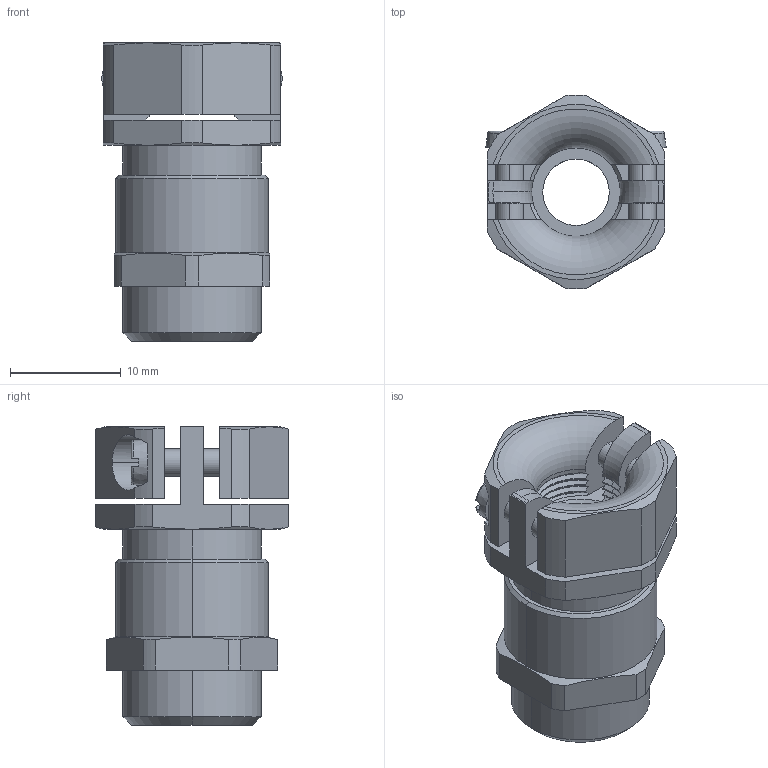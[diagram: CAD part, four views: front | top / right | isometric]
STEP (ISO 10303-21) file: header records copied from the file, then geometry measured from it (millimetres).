
FILE_DESCRIPTION (( 'STEP AP203' ), '1' );
FILE_NAME ('19.507.STEP', '2006-10-16T08:20:29', ( ' ' ), ( '' ), 'SwSTEP 2.0', 'SolidWorks 2005278', '' );
FILE_SCHEMA (( 'CONFIG_CONTROL_DESIGN' ));
Length unit declared in the file: millimetre
Products named in the file (1): 19.507
Bounding box: 16.28 x 17.49 x 27 mm (x, y, z)
Volume: 2804.7 mm3; surface area: 2793.1 mm2
Topology: 1 solids, 1 shells, 232 faces, 632 edges, 413 vertices
Faces by surface type: plane 93, cylinder 64, cone 64, torus 11
Entity records: 7833 total; most frequent: CARTESIAN_POINT 1947, ORIENTED_EDGE 1264, DIRECTION 1174, EDGE_CURVE 632, AXIS2_PLACEMENT_3D 443, VERTEX_POINT 413, VECTOR 288, LINE 288
